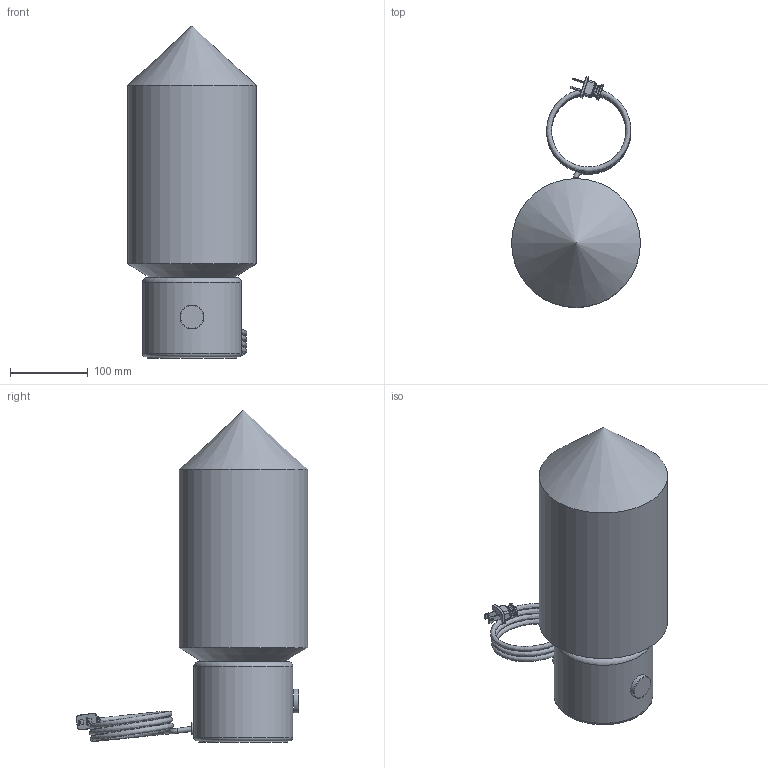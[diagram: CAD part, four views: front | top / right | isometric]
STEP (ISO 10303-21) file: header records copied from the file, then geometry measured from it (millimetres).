
FILE_DESCRIPTION(/* description */ ('','CAx-IF Rec.Pracs.---Representation and Presentation of Product Manufacturing Information (PMI)---4.0---2014-10-13'),/* implementation_level */ '2;1');
FILE_NAME(/* name */ 'Niche - Dart Petite - Ionic Table Lamp.step',/* time_stamp */ '2025-02-10T08:47:06-05:00',/* author */ (''),/* organization */ (''),/* preprocessor_version */ 'ST-DEVELOPER v20',/* originating_system */ 'Autodesk Translation Framework v13.20.0.188',/* authorisation */ '');
FILE_SCHEMA (('AP242_MANAGED_MODEL_BASED_3D_ENGINEERING_MIM_LF { 1 0 10303 442 1 1 4 }'));
Length unit declared in the file: inch
Products named in the file (17): Marble Base - Ionic Table Lamp - 120V; Coiled - SVT (Blk Fabric); Brass Dial - Dimmer Knob; µ÷¹âÆ÷; 90701000093 ¹â°åE27µÆ×ù_¦Õ375
9mm_ºÚÉ«_CEÈÏÖ¤; 90701000096 M10ÑÀ¹Ü_M10L25mmÄÚ¿×¦
Õ7_²ÄÖÊ£ºÌú_¶Æ°×Ð
¿_RoHS; 90701000098 Ñ¹Ïß°å_PP_314612_º
ÚÉ«; 90701000097 M10Áù½Ç±¡ÂÝÄ¸_M10
_²ÄÖÊ£ºÌú_¶Æ°×Ð¿
_RoHS; M10ÄÚ¾â³ÝËø½ôµæÈ¦
_²ÄÖÊ£ºÌú_¶Æ°×Ð¿
_RoHS; Marble Base; Plastic Insert; Silicone Gasket; Neoprene Pad; 2-Pole Plug End; Rubber Grommet; Dart Petite; T8 LED 11"
Assembly tree (16 placements, depth 2):
  Marble Base - Ionic Table Lamp - 120V
    Coiled - SVT (Blk Fabric)
    Brass Dial - Dimmer Knob
    µ÷¹âÆ÷
    90701000093 ¹â°åE27µÆ×ù_¦Õ375
9mm_ºÚÉ«_CEÈÏÖ¤
    90701000096 M10ÑÀ¹Ü_M10L25mmÄÚ¿×¦
Õ7_²ÄÖÊ£ºÌú_¶Æ°×Ð
¿_RoHS
    90701000098 Ñ¹Ïß°å_PP_314612_º
ÚÉ«
    90701000097 M10Áù½Ç±¡ÂÝÄ¸_M10
_²ÄÖÊ£ºÌú_¶Æ°×Ð¿
_RoHS
    M10ÄÚ¾â³ÝËø½ôµæÈ¦
_²ÄÖÊ£ºÌú_¶Æ°×Ð¿
_RoHS
    Marble Base
    Plastic Insert
    Silicone Gasket
    Neoprene Pad
    2-Pole Plug End
    Rubber Grommet
    Dart Petite
    T8 LED 11"
Bounding box: 165.1 x 296.9 x 425.77 mm (x, y, z)
Volume: 1356111.9 mm3; surface area: 658629.9 mm2
Topology: 17 solids, 18 shells, 2023 faces, 5357 edges, 3515 vertices
Faces by surface type: plane 998, bspline 814, cylinder 133, cone 40, torus 34, sphere 4
Full cylindrical faces by diameter (mm): 3.175 x2, 4.092 x1, 5.08 x1, 6.35 x2, 6.7 x1, 7 x1, 7.62 x2, 8.128 x1, 8.3 x1, 8.376 x14, 10 x16, 10.16 x1, 10.5 x1, 10.922 x1, 11 x1, 11.684 x1, 14 x1, 15.24 x2, 16 x1, 16.8 x1, 21 x1, 27 x1, 28.499 x1, 30.48 x2, 35.5 x1, 37.5 x1, 39.37 x1, 41.402 x1, 80.518 x1, 82.55 x1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
Entity records: 78349 total; most frequent: CARTESIAN_POINT 32977, ORIENTED_EDGE 10700, DIRECTION 6518, EDGE_CURVE 5351, VERTEX_POINT 3515, LINE 3300, VECTOR 3300, EDGE_LOOP 2204
